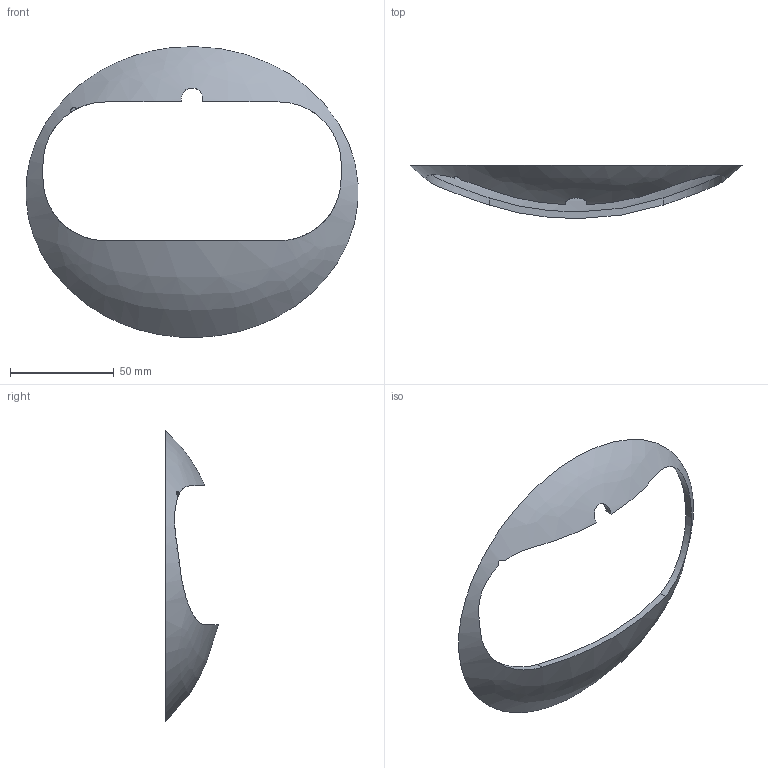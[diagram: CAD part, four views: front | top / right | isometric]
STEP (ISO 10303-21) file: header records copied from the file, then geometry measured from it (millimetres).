
FILE_DESCRIPTION(('Base splice and hand/dowel native rebuild. P1 head/arm retained as imported base geometry.'),'2;1');
FILE_NAME('PEBBLE_HEAD_FRONT_TRIAL.step','',(''),(''),'SolidCraft','SolidCraft','');
FILE_SCHEMA(('AP242_MANAGED_MODEL_BASED_3D_ENGINEERING_MIM_LF { 1 0 10303 442 1 1 4 }'));
Length unit declared in the file: millimetre
Products named in the file (1): PEBBLE_HEAD_FRONT_TRIAL
Bounding box: 160.33 x 25.52 x 140.43 mm (x, y, z)
Volume: 29840.2 mm3; surface area: 22397.3 mm2
Topology: 1 solids, 1 shells, 15 faces, 51 edges, 39 vertices
Faces by surface type: plane 7, cylinder 6, bspline 2
Entity records: 1418 total; most frequent: CARTESIAN_POINT 1054, ORIENTED_EDGE 102, EDGE_CURVE 51, VERTEX_POINT 39, B_SPLINE_CURVE_WITH_KNOTS 36, EDGE_LOOP 18, FACE_BOUND 18, DIRECTION 15
